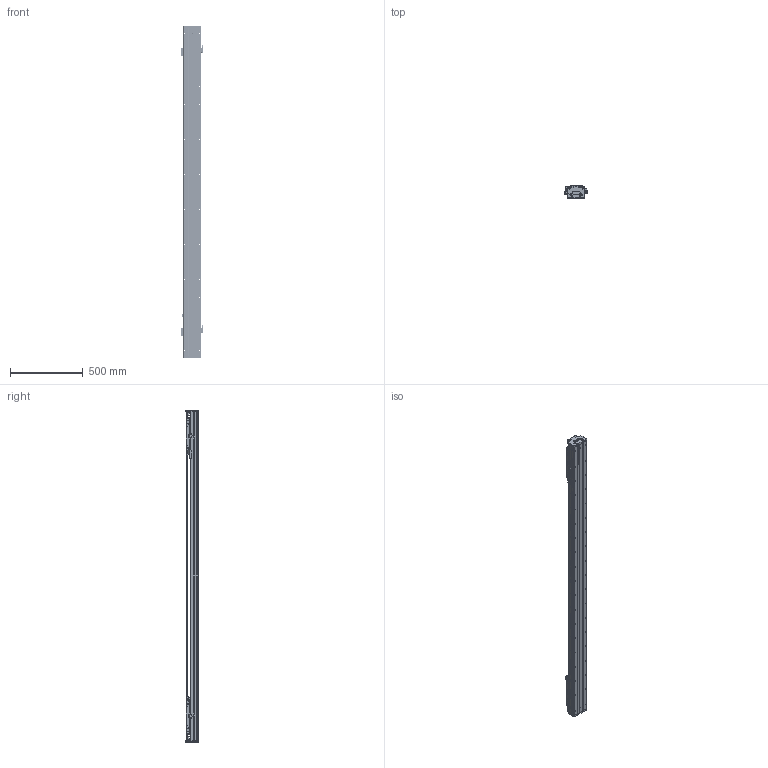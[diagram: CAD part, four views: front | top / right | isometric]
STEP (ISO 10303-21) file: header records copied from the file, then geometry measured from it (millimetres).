
FILE_DESCRIPTION (( 'STEP AP203' ), '1' );
FILE_NAME ('DKW120-2×B3-W060（T1640-L005-0.2）.STEP', '2021-09-29T01:34:12', ( '微软用户' ), ( '微软中国' ), 'SwSTEP 2.0', 'SolidWorks 2018', '' );
FILE_SCHEMA (( 'CONFIG_CONTROL_DESIGN' ));
Length unit declared in the file: millimetre
Products named in the file (22): DKW120-2×B3-W060（T1640-L005-0.2）; DKW119-RU-DTJ-00 RU2黍杅芛盓殤; 10940-0001-004-00 120詩湍裔啣; 10980-0001-003-00 嫖萇羲壽嘐隅釱; 砎蝶猾沭; DKW-SG-GYP-H-00 嫖萇覜茼え; 12160-0000-003-00 DKW120詩湍嶺輸; EE_SX674A; 12160-0000-004-00  DKW120詩湍揤輸; DKW120-B15-T300-DZ-00 菁釱; B3-W060_00; DKW120 单轴模组-拉钢带组件; MSB15-DG-U; DKW-DG-XJ-Z-00 笢潔滅袉砎蝶; BKMA01-W060-TRL280; 06652-0001-001-00 DKW120傷啣; DKW-GYP-ZJ-00 笢潔嫖萇覜茼え; RUS嫖掑喜; 06652-0001-004-00 DKW120嶺輸菜輸; DKW-KGZ-ZJ-00 中间光电开关支架; Ru2; DKW-HXJ-JY-00 遣喳砎蝶
Assembly tree (41 placements, depth 3):
  DKW120-2×B3-W060（T1640-L005-0.2）
    DKW120-B15-T300-DZ-00 菁釱
    MSB15-DG-U  x2
    DKW120 单轴模组-拉钢带组件
      06652-0001-001-00 DKW120傷啣  x2
      06652-0001-004-00 DKW120嶺輸菜輸  x4
      DKW-HXJ-JY-00 遣喳砎蝶  x4
      10940-0001-004-00 120詩湍裔啣
      砎蝶猾沭  x2
      12160-0000-003-00 DKW120詩湍嶺輸  x2
      12160-0000-004-00  DKW120詩湍揤輸  x2
    BKMA01-W060-TRL280
    RUS嫖掑喜
    Ru2  x2
    DKW119-RU-DTJ-00 RU2黍杅芛盓殤  x2
    10980-0001-003-00 嫖萇羲壽嘐隅釱  x2
    DKW-SG-GYP-H-00 嫖萇覜茼え  x2
    EE_SX674A  x5
    B3-W060_00  x2
    DKW-DG-XJ-Z-00 笢潔滅袉砎蝶
    DKW-GYP-ZJ-00 笢潔嫖萇覜茼え
    DKW-KGZ-ZJ-00 中间光电开关支架
Bounding box: 154.1 x 84 x 2276 mm (x, y, z)
Volume: 8794612.7 mm3; surface area: 3334099.7 mm2
Topology: 60 solids, 158 shells, 6692 faces, 18202 edges, 11723 vertices
Faces by surface type: plane 3650, cylinder 2028, cone 520, bspline 494
Entity records: 145818 total; most frequent: CARTESIAN_POINT 49774, ORIENTED_EDGE 19901, DIRECTION 18562, EDGE_CURVE 9991, VERTEX_POINT 6557, AXIS2_PLACEMENT_3D 6254, LINE 6054, VECTOR 6054
